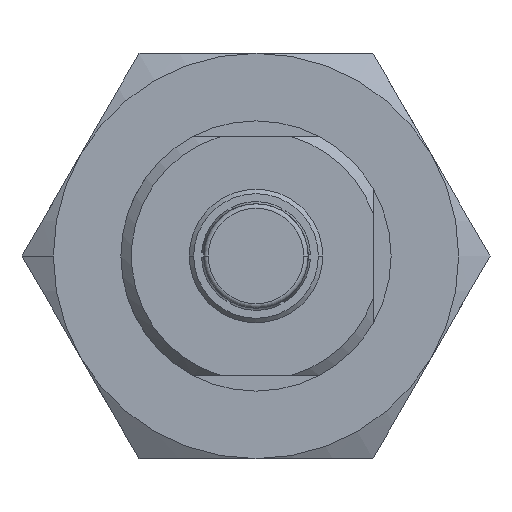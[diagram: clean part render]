
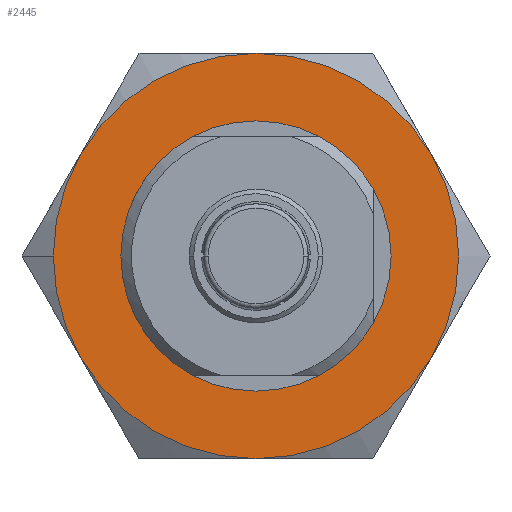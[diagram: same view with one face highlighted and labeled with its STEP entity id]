
A CAD part, front view. The second image highlights one B-rep face of the part: STEP entity #2445.
In plain terms, the highlighted planar face has unit normal (0, -1, 0) as drawn and (1, 0, 0) by its records, which use the part's own axes.
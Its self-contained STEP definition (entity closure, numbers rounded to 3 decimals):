
#1859=CARTESIAN_POINT('',(6.55,0.,0.));
#1860=DIRECTION('',(1.,0.,0.));
#1861=DIRECTION('',(0.,0.,-1.));
#1862=AXIS2_PLACEMENT_3D('',#1859,#1860,#1861);
#1875=CARTESIAN_POINT('',(6.55,0.,0.));
#1876=DIRECTION('',(-1.,0.,0.));
#1877=DIRECTION('',(0.,0.866,-0.5));
#1878=AXIS2_PLACEMENT_3D('',#1875,#1876,#1877);
#1883=CARTESIAN_POINT('',(6.55,0.,0.));
#1884=DIRECTION('',(-1.,0.,0.));
#1885=DIRECTION('',(0.,0.,-1.));
#1886=AXIS2_PLACEMENT_3D('',#1883,#1884,#1885);
#1891=CARTESIAN_POINT('',(6.55,0.,0.));
#1892=DIRECTION('',(-1.,0.,0.));
#1893=DIRECTION('',(0.,-0.866,-0.5));
#1894=AXIS2_PLACEMENT_3D('',#1891,#1892,#1893);
#1899=CARTESIAN_POINT('',(6.55,0.,0.));
#1900=DIRECTION('',(-1.,0.,0.));
#1901=DIRECTION('',(0.,-1.,0.));
#1902=AXIS2_PLACEMENT_3D('',#1899,#1900,#1901);
#1907=CARTESIAN_POINT('',(6.55,0.,0.));
#1908=DIRECTION('',(-1.,0.,0.));
#1909=DIRECTION('',(0.,-0.866,0.5));
#1910=AXIS2_PLACEMENT_3D('',#1907,#1908,#1909);
#1915=CARTESIAN_POINT('',(6.55,0.,0.));
#1916=DIRECTION('',(-1.,0.,0.));
#1917=DIRECTION('',(0.,0.,1.));
#1918=AXIS2_PLACEMENT_3D('',#1915,#1916,#1917);
#1923=CARTESIAN_POINT('',(6.55,0.,0.));
#1924=DIRECTION('',(1.,0.,0.));
#1925=DIRECTION('',(0.,0.,1.));
#1926=AXIS2_PLACEMENT_3D('',#1923,#1924,#1925);
#2016=CARTESIAN_POINT('',(6.55,0.,-13.5));
#2071=CARTESIAN_POINT('',(6.55,0.,0.));
#2072=DIRECTION('',(1.,0.,0.));
#2073=DIRECTION('',(0.,0.866,-0.5));
#2074=AXIS2_PLACEMENT_3D('',#2071,#2072,#2073);
#2086=CARTESIAN_POINT('',(6.55,-11.691,
-6.75));
#2141=CARTESIAN_POINT('',(6.55,-11.691,6.75));
#2189=CARTESIAN_POINT('',(6.55,0.,13.5));
#2244=CARTESIAN_POINT('',(6.55,11.691,6.75));
#2299=CARTESIAN_POINT('',(6.55,11.691,-6.75));
#2361=CARTESIAN_POINT('',(6.55,0.,-8.188));
#2362=CARTESIAN_POINT('',(6.55,0.,8.188));
#2363=VERTEX_POINT('',#2361);
#2364=VERTEX_POINT('',#2362);
#2369=VERTEX_POINT('',#2299);
#2372=VERTEX_POINT('',#2016);
#2374=VERTEX_POINT('',#2244);
#2376=VERTEX_POINT('',#2189);
#2378=VERTEX_POINT('',#2086);
#2380=VERTEX_POINT('',#2141);
#2393=CARTESIAN_POINT('',(6.55,-13.5,0.));
#2394=VERTEX_POINT('',#2393);
#2419=CARTESIAN_POINT('',(6.55,-22.242,11.524));
#2420=DIRECTION('',(-1.,0.,0.));
#2421=DIRECTION('',(0.,0.5,-0.866));
#2422=AXIS2_PLACEMENT_3D('',#2419,#2420,#2421);
#2423=PLANE('',#2422);
#2425=ORIENTED_EDGE('',*,*,#2424,.F.);
#2427=ORIENTED_EDGE('',*,*,#2426,.T.);
#2429=ORIENTED_EDGE('',*,*,#2428,.T.);
#2431=ORIENTED_EDGE('',*,*,#2430,.T.);
#2433=ORIENTED_EDGE('',*,*,#2432,.T.);
#2435=ORIENTED_EDGE('',*,*,#2434,.T.);
#2437=ORIENTED_EDGE('',*,*,#2436,.T.);
#2438=EDGE_LOOP('',(#2425,#2427,#2429,#2431,#2433,#2435,#2437));
#2439=FACE_OUTER_BOUND('',#2438,.F.);
#2440=ORIENTED_EDGE('',*,*,#2408,.T.);
#2442=ORIENTED_EDGE('',*,*,#2441,.T.);
#2443=EDGE_LOOP('',(#2440,#2442));
#2444=FACE_BOUND('',#2443,.F.);
#1863=CIRCLE('',#1862,8.188);
#1879=CIRCLE('',#1878,13.5);
#1887=CIRCLE('',#1886,13.5);
#1895=CIRCLE('',#1894,13.5);
#1903=CIRCLE('',#1902,13.5);
#1911=CIRCLE('',#1910,13.5);
#1919=CIRCLE('',#1918,13.5);
#1927=CIRCLE('',#1926,8.188);
#2075=CIRCLE('',#2074,13.5);
#2408=EDGE_CURVE('',#2363,#2364,#1863,.T.);
#2424=EDGE_CURVE('',#2369,#2374,#2075,.T.);
#2426=EDGE_CURVE('',#2369,#2372,#1879,.T.);
#2428=EDGE_CURVE('',#2372,#2378,#1887,.T.);
#2430=EDGE_CURVE('',#2378,#2394,#1895,.T.);
#2432=EDGE_CURVE('',#2394,#2380,#1903,.T.);
#2434=EDGE_CURVE('',#2380,#2376,#1911,.T.);
#2436=EDGE_CURVE('',#2376,#2374,#1919,.T.);
#2441=EDGE_CURVE('',#2364,#2363,#1927,.T.);
#2445=ADVANCED_FACE('',(#2439,#2444),#2423,.F.);
